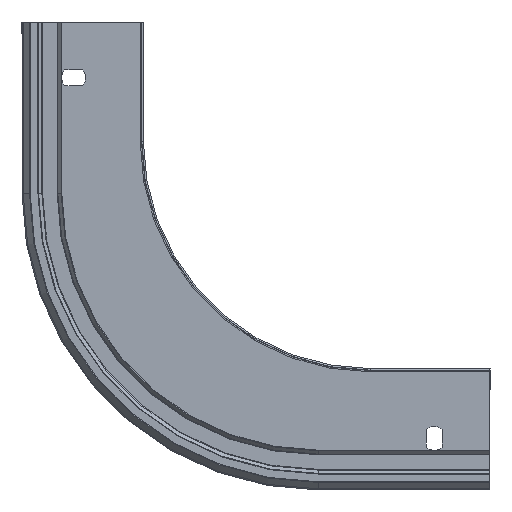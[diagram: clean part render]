
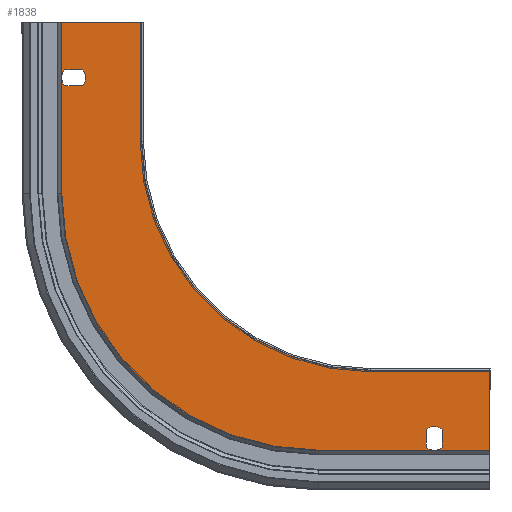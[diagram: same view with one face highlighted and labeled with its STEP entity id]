
A CAD part, left-side view. The second image highlights one B-rep face of the part: STEP entity #1838.
In plain terms, the highlighted planar face has unit normal (-1, 0, 0).
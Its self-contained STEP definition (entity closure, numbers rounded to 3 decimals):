
#37 = EDGE_CURVE ( 'NONE', #1665, #3736, #2098, .T. ) ;
#51 = CARTESIAN_POINT ( 'NONE',  ( 0., 86., 0.331 ) ) ;
#90 = CARTESIAN_POINT ( 'NONE',  ( 0., 32., 0. ) ) ;
#94 = VERTEX_POINT ( 'NONE', #3721 ) ;
#261 = EDGE_CURVE ( 'NONE', #1734, #5202, #5569, .T. ) ;
#263 = ORIENTED_EDGE ( 'NONE', *, *, #736, .F. ) ;
#301 = DIRECTION ( 'NONE',  ( 0., 1., 0. ) ) ;
#336 = ORIENTED_EDGE ( 'NONE', *, *, #5816, .T. ) ;
#358 = CARTESIAN_POINT ( 'NONE',  ( 0., 204.728, -183.2 ) ) ;
#467 = VERTEX_POINT ( 'NONE', #2571 ) ;
#499 = CARTESIAN_POINT ( 'NONE',  ( 0., 175.2, -215.2 ) ) ;
#559 = DIRECTION ( 'NONE',  ( 0., 0., -1. ) ) ;
#601 = DIRECTION ( 'NONE',  ( -1., 0., 0. ) ) ;
#616 = DIRECTION ( 'NONE',  ( 1., 0., 0. ) ) ;
#625 = VERTEX_POINT ( 'NONE', #3224 ) ;
#641 = DIRECTION ( 'NONE',  ( 0., 0., -1. ) ) ;
#736 = EDGE_CURVE ( 'NONE', #3962, #4269, #3313, .T. ) ;
#804 = EDGE_CURVE ( 'NONE', #1899, #1665, #1961, .T. ) ;
#834 = LINE ( 'NONE', #1315, #4876 ) ;
#927 = VECTOR ( 'NONE', #301, 1000. ) ;
#938 = CIRCLE ( 'NONE', #4288, 129.531 ) ;
#947 = ORIENTED_EDGE ( 'NONE', *, *, #4776, .T. ) ;
#1021 = CIRCLE ( 'NONE', #3419, 6. ) ;
#1034 = EDGE_LOOP ( 'NONE', ( #3360, #263, #5338, #336, #3706, #4711, #5881, #4669 ) ) ;
#1035 = LINE ( 'NONE', #1065, #3264 ) ;
#1036 = DIRECTION ( 'NONE',  ( 1., 0., 0. ) ) ;
#1041 = CIRCLE ( 'NONE', #4200, 115.2 ) ;
#1065 = CARTESIAN_POINT ( 'NONE',  ( 0., 215.531, -129.2 ) ) ;
#1106 = EDGE_CURVE ( 'NONE', #3962, #2524, #938, .T. ) ;
#1125 = DIRECTION ( 'NONE',  ( 0., 0., -1. ) ) ;
#1130 = CIRCLE ( 'NONE', #4476, 6. ) ;
#1163 = LINE ( 'NONE', #3920, #2780 ) ;
#1212 = CIRCLE ( 'NONE', #4283, 6. ) ;
#1214 = CARTESIAN_POINT ( 'NONE',  ( 0., 204.728, -191.2 ) ) ;
#1222 = VERTEX_POINT ( 'NONE', #358 ) ;
#1287 = EDGE_CURVE ( 'NONE', #4269, #1669, #2126, .T. ) ;
#1315 = CARTESIAN_POINT ( 'NONE',  ( 0., 0., -191.2 ) ) ;
#1332 = VERTEX_POINT ( 'NONE', #3408 ) ;
#1394 = DIRECTION ( 'NONE',  ( 1., 0., 0. ) ) ;
#1409 = CARTESIAN_POINT ( 'NONE',  ( 0., 60., -155.2 ) ) ;
#1479 = FACE_BOUND ( 'NONE', #5511, .T. ) ;
#1560 = DIRECTION ( 'NONE',  ( 0., 0., 1. ) ) ;
#1617 = CARTESIAN_POINT ( 'NONE',  ( 0., 86., 0.331 ) ) ;
#1624 = CARTESIAN_POINT ( 'NONE',  ( 0., 0., -183.2 ) ) ;
#1636 = DIRECTION ( 'NONE',  ( 1., 0., 0. ) ) ;
#1665 = VERTEX_POINT ( 'NONE', #499 ) ;
#1669 = VERTEX_POINT ( 'NONE', #4543 ) ;
#1734 = VERTEX_POINT ( 'NONE', #1993 ) ;
#1798 = EDGE_CURVE ( 'NONE', #5202, #1332, #1021, .T. ) ;
#1838 = ADVANCED_FACE ( 'NONE', ( #4819, #1479, #4787 ), #2857, .F. ) ;
#1880 = DIRECTION ( 'NONE',  ( 0., 1., 0. ) ) ;
#1899 = VERTEX_POINT ( 'NONE', #3581 ) ;
#1961 = LINE ( 'NONE', #4726, #4472 ) ;
#1965 = CARTESIAN_POINT ( 'NONE',  ( 0., 215.531, -129.2 ) ) ;
#1982 = ORIENTED_EDGE ( 'NONE', *, *, #5571, .T. ) ;
#1993 = CARTESIAN_POINT ( 'NONE',  ( 0., 32., -10.472 ) ) ;
#2098 = LINE ( 'NONE', #4917, #927 ) ;
#2126 = LINE ( 'NONE', #3084, #2831 ) ;
#2246 = DIRECTION ( 'NONE',  ( -1., 0., 0. ) ) ;
#2346 = EDGE_CURVE ( 'NONE', #94, #1222, #5729, .T. ) ;
#2491 = EDGE_CURVE ( 'NONE', #625, #1734, #1212, .T. ) ;
#2504 = CARTESIAN_POINT ( 'NONE',  ( 0., 28., -6. ) ) ;
#2524 = VERTEX_POINT ( 'NONE', #1965 ) ;
#2546 = DIRECTION ( 'NONE',  ( 0., 0., -1. ) ) ;
#2571 = CARTESIAN_POINT ( 'NONE',  ( 0., 60., -40. ) ) ;
#2572 = AXIS2_PLACEMENT_3D ( 'NONE', #4234, #2876, #3780 ) ;
#2678 = VECTOR ( 'NONE', #4675, 1000. ) ;
#2726 = DIRECTION ( 'NONE',  ( 0., 0., 1. ) ) ;
#2780 = VECTOR ( 'NONE', #5621, 1000. ) ;
#2831 = VECTOR ( 'NONE', #2546, 1000. ) ;
#2851 = EDGE_CURVE ( 'NONE', #5698, #625, #1130, .T. ) ;
#2857 = PLANE ( 'NONE',  #5612 ) ;
#2876 = DIRECTION ( 'NONE',  ( 1., 0., 0. ) ) ;
#2900 = CARTESIAN_POINT ( 'NONE',  ( 0., 28., -6. ) ) ;
#3084 = CARTESIAN_POINT ( 'NONE',  ( 0., 0., 0. ) ) ;
#3224 = CARTESIAN_POINT ( 'NONE',  ( 0., 28., -12. ) ) ;
#3264 = VECTOR ( 'NONE', #1125, 1000. ) ;
#3284 = DIRECTION ( 'NONE',  ( 0., 0., -1. ) ) ;
#3313 = LINE ( 'NONE', #51, #3989 ) ;
#3360 = ORIENTED_EDGE ( 'NONE', *, *, #1287, .F. ) ;
#3408 = CARTESIAN_POINT ( 'NONE',  ( 0., 24., -1.528 ) ) ;
#3419 = AXIS2_PLACEMENT_3D ( 'NONE', #2504, #4361, #641 ) ;
#3437 = ORIENTED_EDGE ( 'NONE', *, *, #3708, .T. ) ;
#3470 = DIRECTION ( 'NONE',  ( 0., 0., -1. ) ) ;
#3554 = ORIENTED_EDGE ( 'NONE', *, *, #4026, .T. ) ;
#3555 = CARTESIAN_POINT ( 'NONE',  ( 0., 0., 0.331 ) ) ;
#3560 = VERTEX_POINT ( 'NONE', #3986 ) ;
#3581 = CARTESIAN_POINT ( 'NONE',  ( 0., 175.2, -155.2 ) ) ;
#3583 = ORIENTED_EDGE ( 'NONE', *, *, #2851, .T. ) ;
#3596 = EDGE_CURVE ( 'NONE', #467, #1899, #1041, .T. ) ;
#3662 = LINE ( 'NONE', #5482, #2678 ) ;
#3678 = ORIENTED_EDGE ( 'NONE', *, *, #2491, .T. ) ;
#3706 = ORIENTED_EDGE ( 'NONE', *, *, #37, .F. ) ;
#3708 = EDGE_CURVE ( 'NONE', #3560, #94, #4005, .T. ) ;
#3721 = CARTESIAN_POINT ( 'NONE',  ( 0., 213.672, -183.2 ) ) ;
#3736 = VERTEX_POINT ( 'NONE', #5597 ) ;
#3739 = CARTESIAN_POINT ( 'NONE',  ( 0., 24., -10.472 ) ) ;
#3770 = DIRECTION ( 'NONE',  ( 0., -1., 0. ) ) ;
#3780 = DIRECTION ( 'NONE',  ( 0., 0., -1. ) ) ;
#3882 = CARTESIAN_POINT ( 'NONE',  ( 0., 0., 0. ) ) ;
#3920 = CARTESIAN_POINT ( 'NONE',  ( 0., 0., -40. ) ) ;
#3962 = VERTEX_POINT ( 'NONE', #1617 ) ;
#3986 = CARTESIAN_POINT ( 'NONE',  ( 0., 213.672, -191.2 ) ) ;
#3989 = VECTOR ( 'NONE', #3770, 1000. ) ;
#4005 = CIRCLE ( 'NONE', #2572, 6. ) ;
#4026 = EDGE_CURVE ( 'NONE', #5522, #3560, #834, .T. ) ;
#4136 = CARTESIAN_POINT ( 'NONE',  ( 0., 32., -1.528 ) ) ;
#4200 = AXIS2_PLACEMENT_3D ( 'NONE', #1409, #2246, #2726 ) ;
#4202 = ORIENTED_EDGE ( 'NONE', *, *, #2346, .T. ) ;
#4209 = EDGE_LOOP ( 'NONE', ( #4571, #4469, #947, #3583, #3678 ) ) ;
#4234 = CARTESIAN_POINT ( 'NONE',  ( 0., 209.2, -187.2 ) ) ;
#4236 = CARTESIAN_POINT ( 'NONE',  ( 0., 86., -129.2 ) ) ;
#4269 = VERTEX_POINT ( 'NONE', #3555 ) ;
#4283 = AXIS2_PLACEMENT_3D ( 'NONE', #2900, #616, #5181 ) ;
#4288 = AXIS2_PLACEMENT_3D ( 'NONE', #4236, #601, #1560 ) ;
#4361 = DIRECTION ( 'NONE',  ( 1., 0., 0. ) ) ;
#4469 = ORIENTED_EDGE ( 'NONE', *, *, #1798, .T. ) ;
#4472 = VECTOR ( 'NONE', #559, 1000. ) ;
#4476 = AXIS2_PLACEMENT_3D ( 'NONE', #5561, #1394, #3284 ) ;
#4518 = CARTESIAN_POINT ( 'NONE',  ( 0., 209.2, -187.2 ) ) ;
#4543 = CARTESIAN_POINT ( 'NONE',  ( 0., 0., -40. ) ) ;
#4571 = ORIENTED_EDGE ( 'NONE', *, *, #261, .T. ) ;
#4669 = ORIENTED_EDGE ( 'NONE', *, *, #5387, .F. ) ;
#4675 = DIRECTION ( 'NONE',  ( 0., 0., -1. ) ) ;
#4711 = ORIENTED_EDGE ( 'NONE', *, *, #804, .F. ) ;
#4726 = CARTESIAN_POINT ( 'NONE',  ( 0., 175.2, -155.2 ) ) ;
#4776 = EDGE_CURVE ( 'NONE', #1332, #5698, #3662, .T. ) ;
#4787 = FACE_OUTER_BOUND ( 'NONE', #1034, .T. ) ;
#4798 = CIRCLE ( 'NONE', #5269, 6. ) ;
#4819 = FACE_BOUND ( 'NONE', #4209, .T. ) ;
#4876 = VECTOR ( 'NONE', #1880, 1000. ) ;
#4917 = CARTESIAN_POINT ( 'NONE',  ( 0., 174.2, -215.2 ) ) ;
#4953 = VECTOR ( 'NONE', #5813, 1000. ) ;
#5119 = DIRECTION ( 'NONE',  ( 0., 0., 1. ) ) ;
#5181 = DIRECTION ( 'NONE',  ( 0., 0., -1. ) ) ;
#5202 = VERTEX_POINT ( 'NONE', #4136 ) ;
#5269 = AXIS2_PLACEMENT_3D ( 'NONE', #4518, #1636, #3470 ) ;
#5338 = ORIENTED_EDGE ( 'NONE', *, *, #1106, .T. ) ;
#5387 = EDGE_CURVE ( 'NONE', #1669, #467, #1163, .T. ) ;
#5482 = CARTESIAN_POINT ( 'NONE',  ( 0., 24., 0. ) ) ;
#5511 = EDGE_LOOP ( 'NONE', ( #3554, #3437, #4202, #1982 ) ) ;
#5522 = VERTEX_POINT ( 'NONE', #1214 ) ;
#5561 = CARTESIAN_POINT ( 'NONE',  ( 0., 28., -6. ) ) ;
#5569 = LINE ( 'NONE', #90, #5794 ) ;
#5571 = EDGE_CURVE ( 'NONE', #1222, #5522, #4798, .T. ) ;
#5597 = CARTESIAN_POINT ( 'NONE',  ( 0., 215.531, -215.2 ) ) ;
#5612 = AXIS2_PLACEMENT_3D ( 'NONE', #3882, #1036, #5700 ) ;
#5621 = DIRECTION ( 'NONE',  ( 0., 1., 0. ) ) ;
#5698 = VERTEX_POINT ( 'NONE', #3739 ) ;
#5700 = DIRECTION ( 'NONE',  ( 0., 0., -1. ) ) ;
#5729 = LINE ( 'NONE', #1624, #4953 ) ;
#5794 = VECTOR ( 'NONE', #5119, 1000. ) ;
#5813 = DIRECTION ( 'NONE',  ( 0., -1., 0. ) ) ;
#5816 = EDGE_CURVE ( 'NONE', #2524, #3736, #1035, .T. ) ;
#5881 = ORIENTED_EDGE ( 'NONE', *, *, #3596, .F. ) ;
